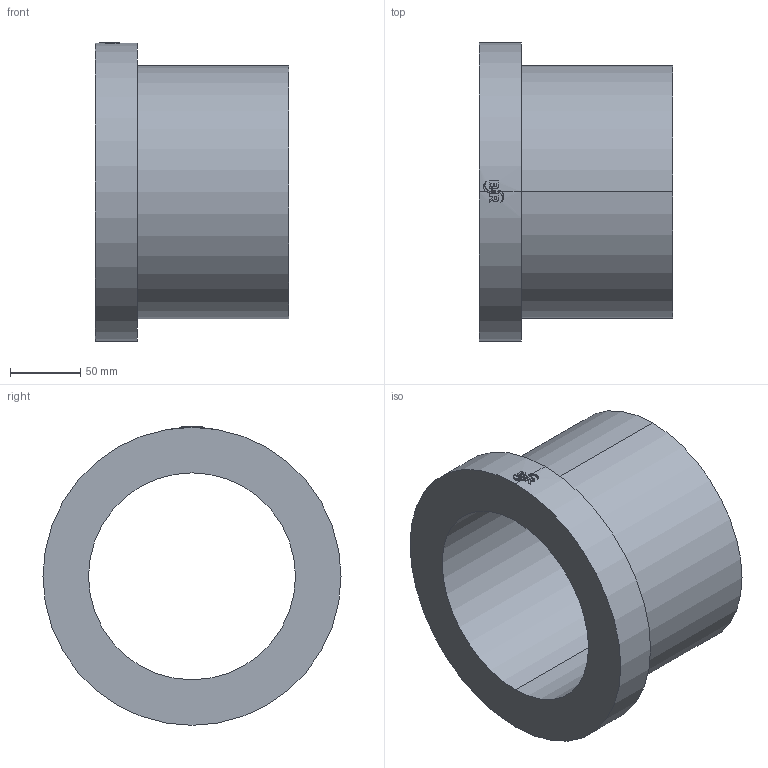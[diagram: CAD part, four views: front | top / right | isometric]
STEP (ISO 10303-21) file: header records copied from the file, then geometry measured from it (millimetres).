
FILE_DESCRIPTION (( 'STEP AP214' ), '1' );
FILE_NAME ('233518F015.STEP', '2018-07-20T12:36:55', ( '' ), ( '' ), 'SwSTEP 2.0', 'SolidWorks 2017', '' );
FILE_SCHEMA (( 'AUTOMOTIVE_DESIGN' ));
Length unit declared in the file: millimetre
Products named in the file (1): 233518F015
Bounding box: 138 x 212 x 212.5 mm (x, y, z)
Volume: 1458804.2 mm3; surface area: 181496 mm2
Topology: 1 solids, 1 shells, 58 faces, 150 edges, 100 vertices
Faces by surface type: cylinder 29, plane 29
Entity records: 2812 total; most frequent: CARTESIAN_POINT 759, ORIENTED_EDGE 300, DIRECTION 272, EDGE_CURVE 150, AXIS2_PLACEMENT_3D 103, VERTEX_POINT 100, VECTOR 66, EDGE_LOOP 66
